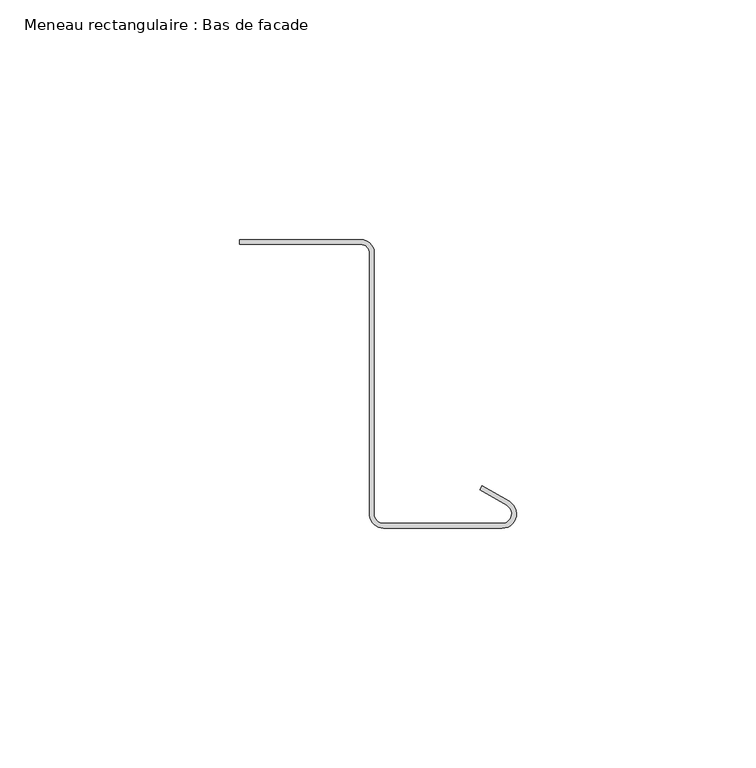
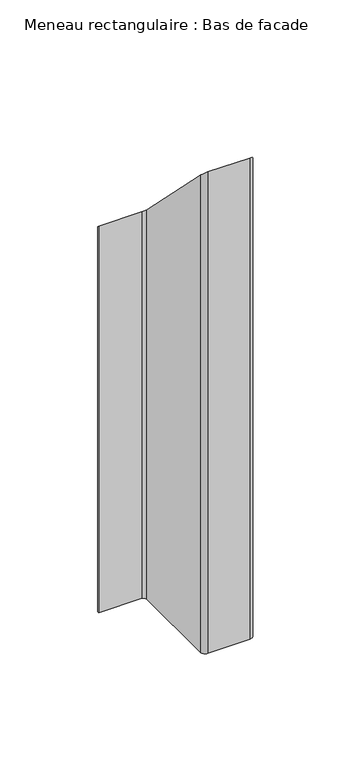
"""IFC4 building model written with IfcOpenShell, lengths in millimetres: member geometry, Meneau rectangulaire : Bas de facade."""

from ifc_helpers import new_model, si_unit, frame, origin, place, context, project, spatial, polyline, circle_curve, ellipse_curve, source, transform, mapped, element, save
from ifc_brep_helpers import plane_surface, cylinder_surface, revolved_surface, advanced_brep


def meneau_rectangulaire_bas_de_facade_60382fdd(model_context):
    return source(origin(), model_context, "Body", "AdvancedBrep", [
        advanced_brep(
        [(-32.4584179, 2.9588923, -243.0), (-29.7143802, 0.3898824, -243.0), (-29.7143802, -54.5495817, -243.0), (-27.735368, -56.2605998, -243.0), (-3.0, -56.2605998, -243.0), (-2.0, -52.528549, -243.0), (-7.6638061, -49.258549, -243.0), (-7.1638061, -48.3925235, -243.0), (-1.5, -51.6625235, -243.0), (-3.0, -57.2605998, -243.0), (-27.735368, -57.2605998, -243.0), (-30.7239521, -54.522067, -243.0), (-30.7239521, 0.4415475, -243.0), (-32.4584179, 1.9588923, -243.0), (-57.8548383, 1.9588923, -243.0), (-57.8548383, 2.9588923, -243.0), (-57.8548383, 2.9588923, -2.9588923), (-32.4584179, 2.9588923, -2.9588923), (-57.8548383, 1.9588923, -1.9588923), (-32.4584179, 1.9588923, -1.9588923), (-30.7239521, 0.4415475, -0.4415475), (-30.7239521, -54.522067, 54.522067), (-27.735368, -57.2605998, 57.2605998), (-3.0, -57.2605998, 57.2605998), (-1.5, -51.6625235, 51.6625235), (-7.1638061, -48.3925235, 48.3925235), (-7.6638061, -49.258549, 49.258549), (-2.0, -52.528549, 52.528549), (-3.0, -56.2605998, 56.2605998), (-27.735368, -56.2605998, 56.2605998), (-29.7143802, -54.5495817, 54.5495817), (-29.7143802, 0.3898824, -0.3898824)],
        [
            (0, 1, circle_curve(frame((-32.4584179, 0.2088923, -243.0), z_axis=(0.0, 0.0, -1.0), x_axis=(0.0, 1.0, 0.0)), 2.75)),
            (1, 2),
            (2, 3, circle_curve(frame((-27.735368, -54.2605998, -243.0), z_axis=(0.0, 0.0, 1.0), x_axis=(-0.9961946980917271, -0.08715574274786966, 0.0)), 2.0)),
            (3, 4),
            (4, 5, circle_curve(frame((-3.0, -54.2605998, -243.0), z_axis=(0.0, 0.0, 1.0), x_axis=(0.0, -1.0, 0.0)), 2.0)),
            (5, 6),
            (6, 7),
            (7, 8),
            (8, 9, circle_curve(frame((-3.0, -54.2605998, -243.0), z_axis=(0.0, 0.0, -1.0), x_axis=(0.0, -1.0, 0.0)), 3.0)),
            (9, 10),
            (10, 11, circle_curve(frame((-27.735368, -54.2605998, -243.0), z_axis=(0.0, 0.0, -1.0), x_axis=(-0.9961946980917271, -0.08715574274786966, 0.0)), 3.0)),
            (11, 12),
            (12, 13, circle_curve(frame((-32.4584179, 0.2088923, -243.0), z_axis=(0.0, 0.0, 1.0), x_axis=(0.0, 1.0, 0.0)), 1.75)),
            (13, 14),
            (14, 15),
            (15, 0),
            (16, 17),
            (17, 0),
            (15, 16),
            (18, 16),
            (14, 18),
            (19, 18),
            (13, 19),
            (20, 19, ellipse_curve(frame((-32.4584179, 0.2088923, -0.2088923), z_axis=(0.0, 0.7071067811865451, 0.70710678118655), x_axis=(0.0, 0.70710678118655, -0.7071067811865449)), 2.4748737, 1.75)),
            (12, 20),
            (21, 20),
            (11, 21),
            (22, 21, ellipse_curve(frame((-27.735368, -54.2605998, 54.2605998), z_axis=(0.0, -0.7071067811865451, -0.70710678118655), x_axis=(0.0, -0.70710678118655, 0.7071067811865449)), 4.2426407, 3.0)),
            (10, 22),
            (23, 22),
            (9, 23),
            (24, 23, ellipse_curve(frame((-3.0, -54.2605998, 54.2605998), z_axis=(0.0, -0.7071067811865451, -0.70710678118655), x_axis=(0.0, -0.70710678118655, 0.7071067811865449)), 4.2426407, 3.0)),
            (8, 24),
            (25, 24),
            (7, 25),
            (26, 25),
            (6, 26),
            (27, 26),
            (5, 27),
            (28, 27, ellipse_curve(frame((-3.0, -54.2605998, 54.2605998), z_axis=(0.0, 0.7071067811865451, 0.70710678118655), x_axis=(0.0, 0.70710678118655, -0.7071067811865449)), 2.8284271, 2.0)),
            (4, 28),
            (29, 28),
            (3, 29),
            (30, 29, ellipse_curve(frame((-27.735368, -54.2605998, 54.2605998), z_axis=(0.0, 0.7071067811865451, 0.70710678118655), x_axis=(0.0, 0.70710678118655, -0.7071067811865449)), 2.8284271, 2.0)),
            (2, 30),
            (31, 30),
            (1, 31),
            (17, 31, ellipse_curve(frame((-32.4584179, 0.2088923, -0.2088923), z_axis=(0.0, -0.7071067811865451, -0.70710678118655), x_axis=(0.0, -0.70710678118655, 0.7071067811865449)), 3.8890873, 2.75)),
        ],
        [
            plane_surface(frame((0.0, -63.8351035, -243.0), z_axis=(0.0, 0.0, -1.0), x_axis=(-1.0, 0.0, 0.0))),
            plane_surface(frame((-32.4584179, 2.9588923, 0.0), z_axis=(0.0, 1.0, 0.0), x_axis=(0.0, 0.0, -1.0))),
            plane_surface(frame((-57.8548383, 2.9588923, 0.0), z_axis=(-1.0, 0.0, 0.0), x_axis=(0.0, 0.0, -1.0))),
            plane_surface(frame((-57.8548383, 1.9588923, 0.0), z_axis=(0.0, -1.0, 0.0), x_axis=(0.0, 0.0, -1.0))),
            revolved_surface(polyline([(-32.4584179, 1.9588923, -243.0), (-32.4584179, 1.9588923, 1.5411076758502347)]), (-32.4584179, 0.2088923, 0.0), (0.0, 0.0, -1.0)),
            plane_surface(frame((-30.7239521, 0.4415475, 0.0), z_axis=(-1.0, 0.0, 0.0), x_axis=(0.0, 0.0, -1.0))),
            cylinder_surface(frame((-27.735368, -54.2605998, 0.0), z_axis=(0.0, 0.0, 1.0000000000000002), x_axis=(-0.9961946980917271, -0.08715574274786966, 0.0)), 3.0),
            plane_surface(frame((-27.735368, -57.2605998, 0.0), z_axis=(0.0, -1.0, 0.0), x_axis=(0.0, 0.0, -1.0))),
            cylinder_surface(frame((-3.0, -54.2605998, 0.0), z_axis=(0.0, 0.0, 1.0), x_axis=(0.0, -1.0, 0.0)), 3.0),
            plane_surface(frame((-1.5, -51.6625235, 0.0), z_axis=(0.5000000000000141, 0.8660254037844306, 0.0), x_axis=(0.0, 0.0, -1.0))),
            plane_surface(frame((-7.1638061, -48.3925235, 0.0), z_axis=(-0.8660254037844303, 0.5000000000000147, 0.0), x_axis=(0.0, 0.0, -1.0))),
            plane_surface(frame((-7.6638061, -49.258549, 0.0), z_axis=(-0.500000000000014, -0.8660254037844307, 0.0), x_axis=(0.0, 0.0, -1.0))),
            revolved_surface(polyline([(-3.0, -56.2605998, -243.0), (-3.0, -56.2605998, 56.2605998)]), (-3.0, -54.2605998, 0.0), (0.0, 0.0, -1.0)),
            plane_surface(frame((-3.0, -56.2605998, 0.0), z_axis=(0.0, 1.0, 0.0), x_axis=(0.0, 0.0, -1.0))),
            revolved_surface(polyline([(-29.727757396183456, -54.434911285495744, -243.0000000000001), (-29.727757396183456, -54.434911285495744, 56.26059980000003)]), (-27.735368, -54.2605998, 0.0), (0.0, 0.0, -1.0000000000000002)),
            plane_surface(frame((-29.7143802, -54.5495817, 0.0), z_axis=(1.0, 0.0, 0.0), x_axis=(0.0, 0.0, -1.0))),
            cylinder_surface(frame((-32.4584179, 0.2088923, 0.0), z_axis=(0.0, 0.0, 1.0), x_axis=(0.0, 1.0, 0.0)), 2.75),
            plane_surface(frame((-304.8, 0.0, 0.0), z_axis=(0.0, 0.7071067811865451, 0.70710678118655), x_axis=(0.0, 0.70710678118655, -0.7071067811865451))),
        ],
        [
            (0, [[1, 2, 3, 4, 5, 6, 7, 8, 9, 10, 11, 12, 13, 14, 15, 16]]),
            (1, [[17, 18, -16, 19]]),
            (2, [[20, -19, -15, 21]]),
            (3, [[22, -21, -14, 23]]),
            (4, [[24, -23, -13, 25]]),
            (5, [[26, -25, -12, 27]]),
            (6, [[28, -27, -11, 29]]),
            (7, [[30, -29, -10, 31]]),
            (8, [[32, -31, -9, 33]]),
            (9, [[34, -33, -8, 35]]),
            (10, [[36, -35, -7, 37]]),
            (11, [[38, -37, -6, 39]]),
            (12, [[40, -39, -5, 41]]),
            (13, [[42, -41, -4, 43]]),
            (14, [[44, -43, -3, 45]]),
            (15, [[46, -45, -2, 47]]),
            (16, [[48, -47, -1, -18]]),
            (17, [[-17, -20, -22, -24, -26, -28, -30, -32, -34, -36, -38, -40, -42, -44, -46, -48]]),
        ],
    ),
    ])


if __name__ == "__main__":
    model = new_model("IFC4")
    model_context = context("Model", 3, world=origin())
    ifc_project = project(units=[si_unit("LENGTHUNIT", "METRE", prefix="MILLI")], contexts=[model_context])
    site = spatial("IfcSite", under=ifc_project)
    building = spatial("IfcBuilding", under=site)
    placement = place(None, origin())
    meneau_rectangulaire_bas_de_facade_shape = meneau_rectangulaire_bas_de_facade_60382fdd(model_context)
    element("IfcMember", 1, ObjectType="Meneau rectangulaire : Bas de facade", at=placement, inside=building, context=model_context, shape_type="MappedRepresentation", body=[
        mapped(meneau_rectangulaire_bas_de_facade_shape, transform((0.0, 0.0, 0.0), x_axis=(1.0, 0.0, 0.0), y_axis=(0.0, 1.0, 0.0), z_axis=(0.0, 0.0, 1.0))),
    ])
    save(model, "model.ifc")
